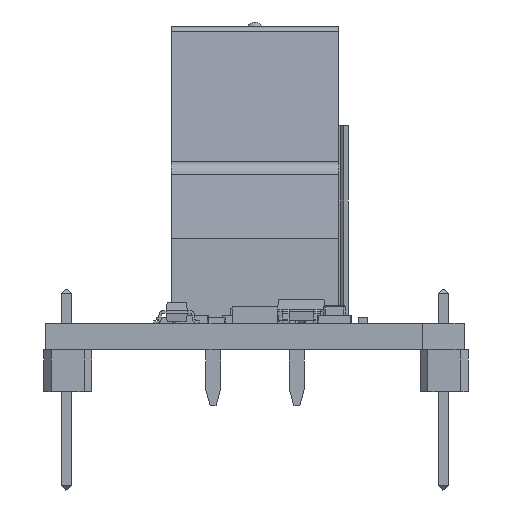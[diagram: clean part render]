
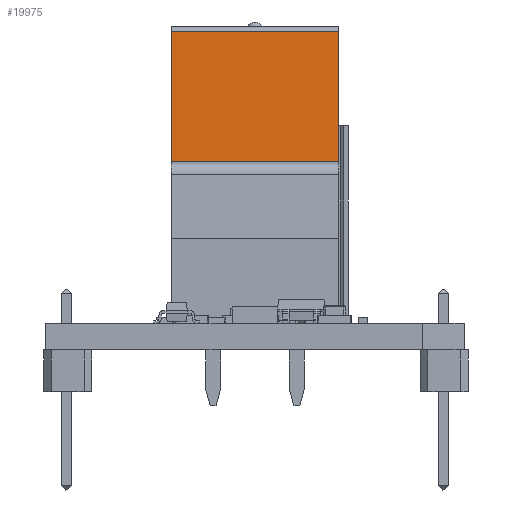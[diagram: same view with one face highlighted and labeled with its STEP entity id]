
A CAD part, front view. The second image highlights one B-rep face of the part: STEP entity #19975.
In plain terms, the highlighted planar face has unit normal (0, -0.999, 0.035) as drawn and (-0.999, 0.035, 0) by its records, which use the part's own axes.
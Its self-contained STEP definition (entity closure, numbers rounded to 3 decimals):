
#19975 = ADVANCED_FACE('',(#19976),#20010,.T.);
#19976 = FACE_BOUND('',#19977,.T.);
#19977 = EDGE_LOOP('',(#19978,#19988,#19996,#20004));
#19978 = ORIENTED_EDGE('',*,*,#19979,.F.);
#19979 = EDGE_CURVE('',#19980,#19982,#19984,.T.);
#19980 = VERTEX_POINT('',#19981);
#19981 = CARTESIAN_POINT('',(-43.425,93.196,-12.62));
#19982 = VERTEX_POINT('',#19983);
#19983 = CARTESIAN_POINT('',(-43.425,93.196,-2.46));
#19984 = LINE('',#19985,#19986);
#19985 = CARTESIAN_POINT('',(-43.425,93.196,-7.58));
#19986 = VECTOR('',#19987,1.);
#19987 = DIRECTION('',(0.,0.,1.));
#19988 = ORIENTED_EDGE('',*,*,#19989,.F.);
#19989 = EDGE_CURVE('',#19990,#19980,#19992,.T.);
#19990 = VERTEX_POINT('',#19991);
#19991 = CARTESIAN_POINT('',(-43.701,85.286,-12.62));
#19992 = LINE('',#19993,#19994);
#19993 = CARTESIAN_POINT('',(-46.679,0.,-12.62));
#19994 = VECTOR('',#19995,1.);
#19995 = DIRECTION('',(0.035,0.999,
    0.));
#19996 = ORIENTED_EDGE('',*,*,#19997,.F.);
#19997 = EDGE_CURVE('',#19998,#19990,#20000,.T.);
#19998 = VERTEX_POINT('',#19999);
#19999 = CARTESIAN_POINT('',(-43.701,85.286,-2.46));
#20000 = LINE('',#20001,#20002);
#20001 = CARTESIAN_POINT('',(-43.701,85.286,-10.));
#20002 = VECTOR('',#20003,1.);
#20003 = DIRECTION('',(0.,0.,-1.));
#20004 = ORIENTED_EDGE('',*,*,#20005,.F.);
#20005 = EDGE_CURVE('',#19982,#19998,#20006,.T.);
#20006 = LINE('',#20007,#20008);
#20007 = CARTESIAN_POINT('',(-46.679,0.,-2.46));
#20008 = VECTOR('',#20009,1.);
#20009 = DIRECTION('',(-0.035,-0.999,
    0.));
#20010 = PLANE('',#20011);
#20011 = AXIS2_PLACEMENT_3D('',#20012,#20013,#20014);
#20012 = CARTESIAN_POINT('',(-43.701,85.286,-10.));
#20013 = DIRECTION('',(-0.999,0.035,
    0.));
#20014 = DIRECTION('',(-0.035,-0.999,
    0.));
